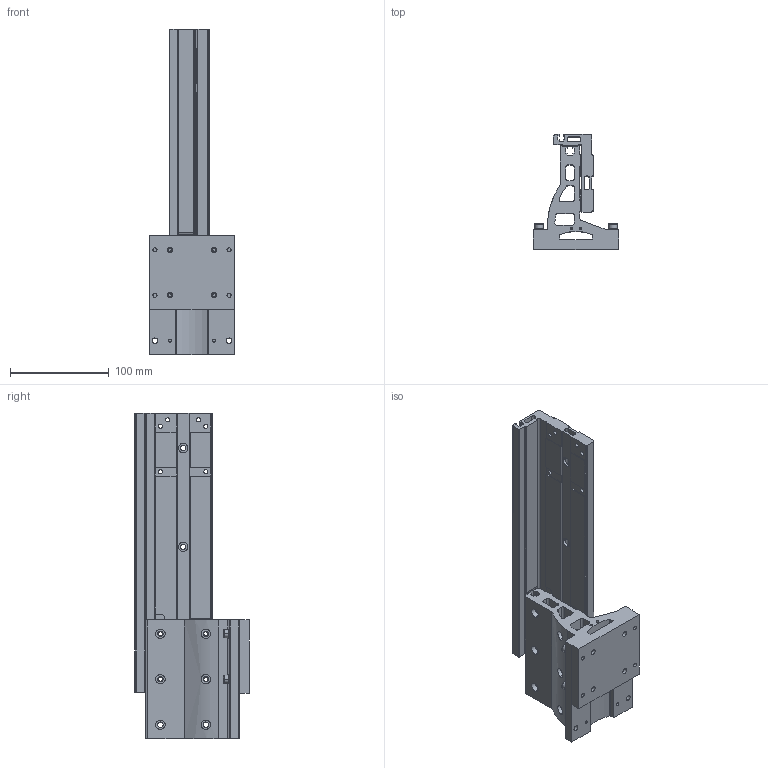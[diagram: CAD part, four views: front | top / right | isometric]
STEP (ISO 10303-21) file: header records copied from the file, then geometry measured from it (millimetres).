
FILE_DESCRIPTION (( 'STEP AP203' ), '1' );
FILE_NAME ('X-Y_PAB-S6S3R010_D1004.step', '2023-09-21T09:54:10', ( '' ), ( '' ), 'SwSTEP 2.0', 'SolidWorks 2020', '' );
FILE_SCHEMA (( 'CONFIG_CONTROL_DESIGN' ));
Length unit declared in the file: millimetre
Products named in the file (1): X-Y_PAB-S6S3R010_D1004
Bounding box: 87 x 116 x 329 mm (x, y, z)
Volume: 619166.1 mm3; surface area: 178852.3 mm2
Topology: 1 solids, 1 shells, 416 faces, 1080 edges, 707 vertices
Faces by surface type: plane 202, cylinder 198, cone 8, torus 8
Entity records: 13165 total; most frequent: CARTESIAN_POINT 2406, DIRECTION 2322, ORIENTED_EDGE 2144, EDGE_CURVE 1072, AXIS2_PLACEMENT_3D 839, VERTEX_POINT 707, LINE 644, VECTOR 644
